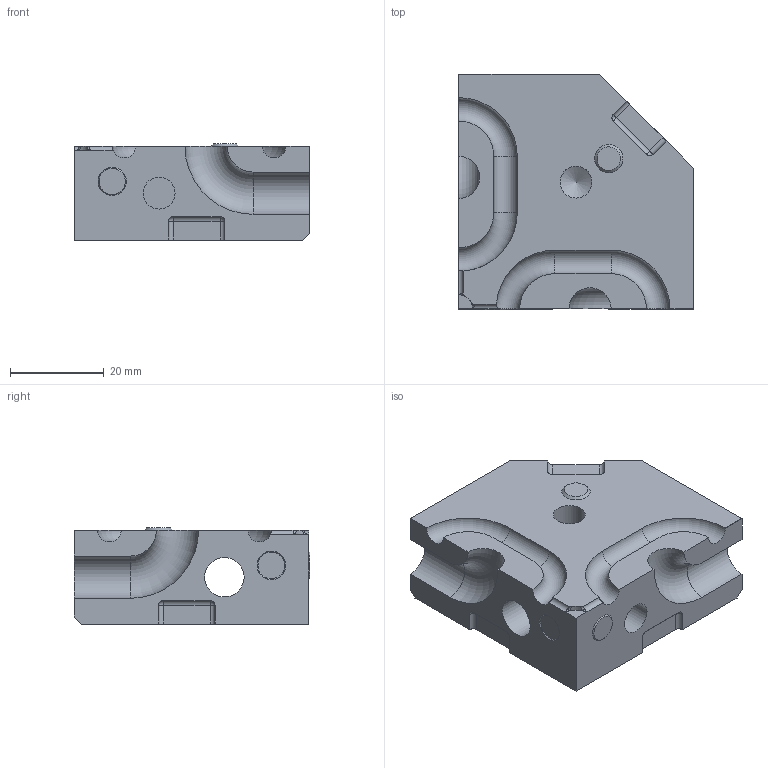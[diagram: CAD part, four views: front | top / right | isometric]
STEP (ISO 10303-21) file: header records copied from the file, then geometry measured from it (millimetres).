
FILE_DESCRIPTION(/* description */ (''),/* implementation_level */ '2;1');
FILE_NAME(/* name */ 'Bottom Mould.step',/* time_stamp */ '2023-04-14T09:57:23+02:00',/* author */ (''),/* organization */ (''),/* preprocessor_version */ 'ST-DEVELOPER v19.2',/* originating_system */ 'Autodesk Translation Framework v12.4.0.73',/* authorisation */ '');
FILE_SCHEMA (('AUTOMOTIVE_DESIGN { 1 0 10303 214 3 1 1 }'));
Length unit declared in the file: millimetre
Products named in the file (1): Bottom Mould
Bounding box: 50 x 50.2 x 20.5 mm (x, y, z)
Volume: 38219.5 mm3; surface area: 10647.2 mm2
Topology: 1 solids, 1 shells, 65 faces, 163 edges, 103 vertices
Faces by surface type: plane 25, cylinder 20, sphere 6, torus 6, cone 4, bspline 4
Full cylindrical faces by diameter (mm): 6.779 x2, 8.4 x1, 15 x1
Entity records: 2093 total; most frequent: CARTESIAN_POINT 485, DIRECTION 342, ORIENTED_EDGE 320, EDGE_CURVE 160, AXIS2_PLACEMENT_3D 132, VERTEX_POINT 103, LINE 78, VECTOR 78
